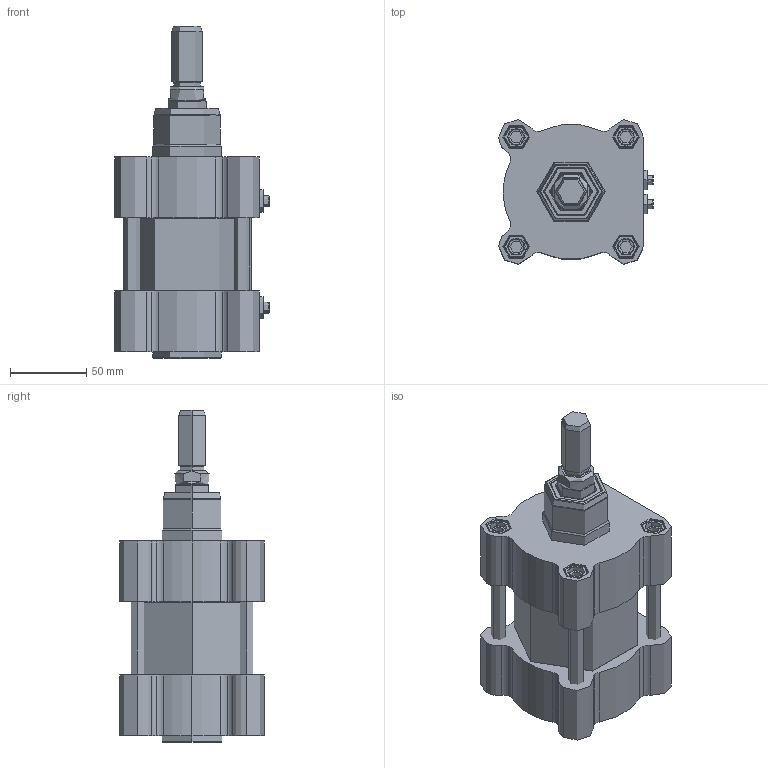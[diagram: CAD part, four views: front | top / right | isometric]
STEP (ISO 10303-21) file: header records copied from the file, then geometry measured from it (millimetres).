
FILE_DESCRIPTION(('STEP AP214'),'1');
FILE_NAME('81M80A0000.stp','2016-07-11T07:22:28',(' '),(' '),'Spatial InterOp 3D',' ',' ');
FILE_SCHEMA(('automotive_design'));
Length unit declared in the file: millimetre
Products named in the file (6): 81M80A0000; CORPO-000; STELO-000; TA; TIRANTE-000; TP
Assembly tree (8 placements, depth 2):
  81M80A0000
    CORPO-000
    STELO-000
    TA
    TIRANTE-000  x4
    TP
Bounding box: 101.5 x 94.8 x 218 mm (x, y, z)
Volume: 772807 mm3; surface area: 160864.9 mm2
Topology: 17 solids, 17 shells, 729 faces, 1624 edges, 984 vertices
Faces by surface type: cone 230, cylinder 210, plane 193, torus 86, revolution 10
Full cylindrical faces by diameter (mm): 5 x2, 6.6 x1, 8 x1, 9.3 x1, 11.8 x1, 11.99 x1, 12 x2, 40 x1
Entity records: 26240 total; most frequent: CARTESIAN_POINT 4142, DIRECTION 3776, ORIENTED_EDGE 3164, EDGE_CURVE 1582, AXIS2_PLACEMENT_3D 1566, VERTEX_POINT 960, CIRCLE 852, EDGE_LOOP 780
